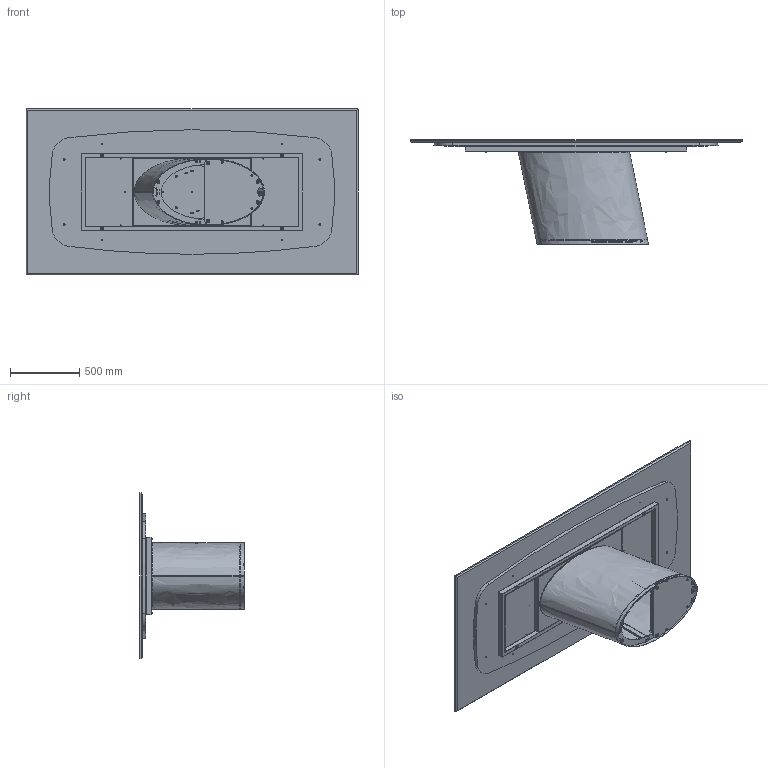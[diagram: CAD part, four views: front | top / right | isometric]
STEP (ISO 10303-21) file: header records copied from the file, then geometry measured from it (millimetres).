
FILE_DESCRIPTION (( 'STEP AP203' ), '1' );
FILE_NAME ('DO23M.STEP', '2024-08-06T13:11:06', ( '' ), ( '' ), 'SwSTEP 2.0', 'SolidWorks 2022', '' );
FILE_SCHEMA (( 'CONFIG_CONTROL_DESIGN' ));
Length unit declared in the file: millimetre
Products named in the file (23): DOB000000_04-00-contrapesso filettato_Default<A macchina>; DOB000000_02-00-barra rettangoalre di supporto_Default<A macchina>; M8xXXmm_M8x55mm; TTAV01-05-TELAIO UNIVERSALE X TAVOLI 180 240cm; TTAV01_02-05-VASSOIO IRRIGIDIMENTO TELAIO UNIVERSALE; M2X-00-Piani rettangolari marmo_2400*1200; DO23M; COLLO TELAIO UNIVERSALE TTAV01 CON FERRAMENTA_MTG TOP LEGNO-MARMO-KING; M8xXXmm_M8X30mm; DOB000000-00-DORADO BASE GREZZO; piedino dorado; TTAV01_01-05-TELAIO UNIVERSALE X TAVOLI 180 240cm; DOB000000_05-00-Zavorra intenra del dorado_Default<A macchina>; barra filettata H.72cm_barra; M2XMXX-00-Piani rettangolari in marmo_2400x1200; DOB000000_07-00-lamiera guscio sx_Default<A macchina>; DOB000000_06-00-Lamiera guscio dx_Default<A macchina>; nut_M8_M8; DOB000000_01-00-piastra superiore _Default<A macchina>; DOB000000_03-00-Piastra  inferiore_Default<A macchina>; TRUXXXXXX-00-NOBILITATO GR CON SUPP TRUCIOLARE SP. 25_TRU00007_2100x900; rondella M8_8X24; DOB000000_08-00-Zavorra inferiore_Default<A macchina>
Assembly tree (44 placements, depth 4):
  DO23M
    DOB000000-00-DORADO BASE GREZZO
      DOB000000_08-00-Zavorra inferiore_Default<A macchina>
      DOB000000_04-00-contrapesso filettato_Default<A macchina>
      DOB000000_05-00-Zavorra intenra del dorado_Default<A macchina>  x4
      DOB000000_01-00-piastra superiore _Default<A macchina>
      DOB000000_07-00-lamiera guscio sx_Default<A macchina>
      DOB000000_02-00-barra rettangoalre di supporto_Default<A macchina>  x4
      DOB000000_03-00-Piastra  inferiore_Default<A macchina>
      DOB000000_06-00-Lamiera guscio dx_Default<A macchina>
      M8xXXmm_M8X30mm  x4
      nut_M8_M8  x2
      piedino dorado  x6
      barra filettata H.72cm_barra  x2
    COLLO TELAIO UNIVERSALE TTAV01 CON FERRAMENTA_MTG TOP LEGNO-MARMO-KING
      TTAV01-05-TELAIO UNIVERSALE X TAVOLI 180 240cm
        TTAV01_02-05-VASSOIO IRRIGIDIMENTO TELAIO UNIVERSALE
        TTAV01_01-05-TELAIO UNIVERSALE X TAVOLI 180 240cm
      rondella M8_8X24  x4
      M8xXXmm_M8x55mm  x4
    M2XMXX-00-Piani rettangolari in marmo_2400x1200
      M2X-00-Piani rettangolari marmo_2400*1200
      TRUXXXXXX-00-NOBILITATO GR CON SUPP TRUCIOLARE SP. 25_TRU00007_2100x900
Bounding box: 2400 x 757 x 1200 mm (x, y, z)
Volume: 112402910.1 mm3; surface area: 16697687.3 mm2
Topology: 46 solids, 46 shells, 1327 faces, 3225 edges, 1981 vertices
Faces by surface type: cylinder 533, plane 454, cone 182, torus 124, bspline 26, sphere 8
Entity records: 30772 total; most frequent: CARTESIAN_POINT 8524, DIRECTION 4187, ORIENTED_EDGE 3854, EDGE_CURVE 1927, AXIS2_PLACEMENT_3D 1578, VERTEX_POINT 1231, LINE 1031, VECTOR 1031
